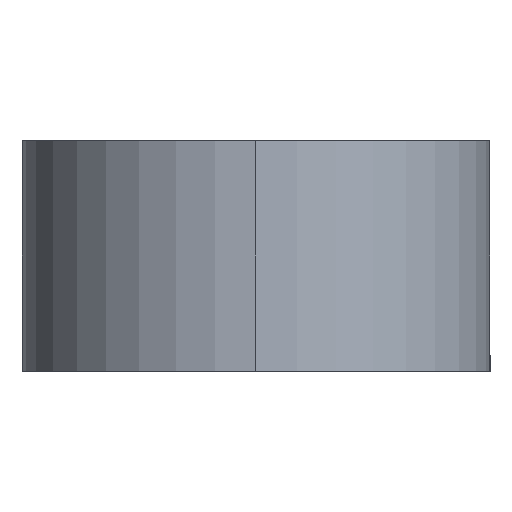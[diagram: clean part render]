
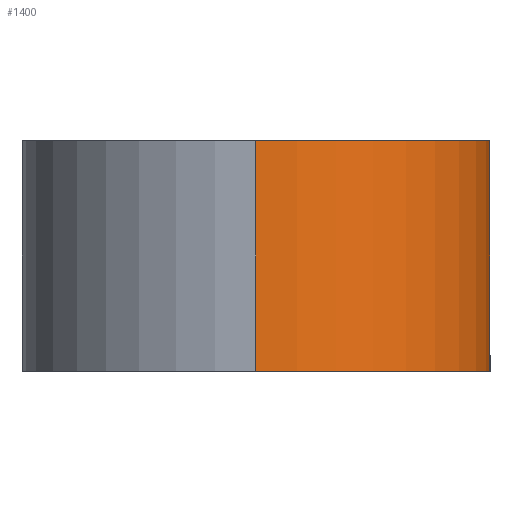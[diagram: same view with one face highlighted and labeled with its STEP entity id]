
A CAD part, left-side view. The second image highlights one B-rep face of the part: STEP entity #1400.
In plain terms, the highlighted cylindrical face has radius 6.2 mm (diameter 12.4 mm), a partial arc.
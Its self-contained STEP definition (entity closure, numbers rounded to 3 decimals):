
#310 = DIRECTION ( 'NONE',  ( 0., 0., 1. ) ) ;
#502 = ORIENTED_EDGE ( 'NONE', *, *, #6770, .T. ) ;
#886 = EDGE_LOOP ( 'NONE', ( #6721, #6333, #502, #11030 ) ) ;
#1400 = ADVANCED_FACE ( 'NONE', ( #3831 ), #3886, .T. ) ;
#1440 = AXIS2_PLACEMENT_3D ( 'NONE', #10039, #7350, #10095 ) ;
#1545 = EDGE_CURVE ( 'NONE', #2956, #7565, #2574, .T. ) ;
#1578 = CIRCLE ( 'NONE', #5216, 6.2 ) ;
#2039 = CARTESIAN_POINT ( 'NONE',  ( -31.75, -6.2, 3.05 ) ) ;
#2095 = DIRECTION ( 'NONE',  ( 0., 0., -1. ) ) ;
#2168 = CARTESIAN_POINT ( 'NONE',  ( -37.95, 0., -3.05 ) ) ;
#2247 = CARTESIAN_POINT ( 'NONE',  ( -31.75, 0., -3.05 ) ) ;
#2348 = VECTOR ( 'NONE', #2631, 1000. ) ;
#2435 = VECTOR ( 'NONE', #2095, 1000. ) ;
#2573 = VERTEX_POINT ( 'NONE', #4817 ) ;
#2574 = LINE ( 'NONE', #6051, #2348 ) ;
#2631 = DIRECTION ( 'NONE',  ( 0., 0., -1. ) ) ;
#2956 = VERTEX_POINT ( 'NONE', #6079 ) ;
#3701 = LINE ( 'NONE', #4732, #2435 ) ;
#3831 = FACE_OUTER_BOUND ( 'NONE', #886, .T. ) ;
#3854 = DIRECTION ( 'NONE',  ( 1., 0., 0. ) ) ;
#3886 = CYLINDRICAL_SURFACE ( 'NONE', #1440, 6.2 ) ;
#4732 = CARTESIAN_POINT ( 'NONE',  ( -31.75, -6.2, 1. ) ) ;
#4764 = DIRECTION ( 'NONE',  ( 1., 0., 0. ) ) ;
#4817 = CARTESIAN_POINT ( 'NONE',  ( -31.75, -6.2, -3.05 ) ) ;
#5216 = AXIS2_PLACEMENT_3D ( 'NONE', #7204, #310, #3854 ) ;
#6051 = CARTESIAN_POINT ( 'NONE',  ( -37.95, 0., 1. ) ) ;
#6079 = CARTESIAN_POINT ( 'NONE',  ( -37.95, 0., 3.05 ) ) ;
#6333 = ORIENTED_EDGE ( 'NONE', *, *, #1545, .T. ) ;
#6721 = ORIENTED_EDGE ( 'NONE', *, *, #9644, .F. ) ;
#6758 = AXIS2_PLACEMENT_3D ( 'NONE', #2247, #9029, #4764 ) ;
#6770 = EDGE_CURVE ( 'NONE', #7565, #2573, #9132, .T. ) ;
#7204 = CARTESIAN_POINT ( 'NONE',  ( -31.75, 0., 3.05 ) ) ;
#7350 = DIRECTION ( 'NONE',  ( 0., 0., -1. ) ) ;
#7565 = VERTEX_POINT ( 'NONE', #2168 ) ;
#7930 = VERTEX_POINT ( 'NONE', #2039 ) ;
#9029 = DIRECTION ( 'NONE',  ( 0., 0., 1. ) ) ;
#9132 = CIRCLE ( 'NONE', #6758, 6.2 ) ;
#9222 = EDGE_CURVE ( 'NONE', #7930, #2573, #3701, .T. ) ;
#9644 = EDGE_CURVE ( 'NONE', #2956, #7930, #1578, .T. ) ;
#10039 = CARTESIAN_POINT ( 'NONE',  ( -31.75, 0., 1. ) ) ;
#10095 = DIRECTION ( 'NONE',  ( -1., 0., 0. ) ) ;
#11030 = ORIENTED_EDGE ( 'NONE', *, *, #9222, .F. ) ;
